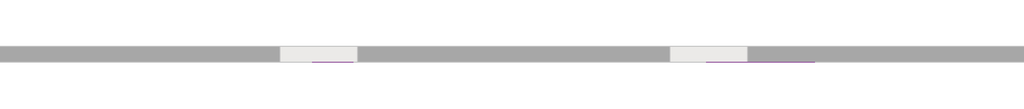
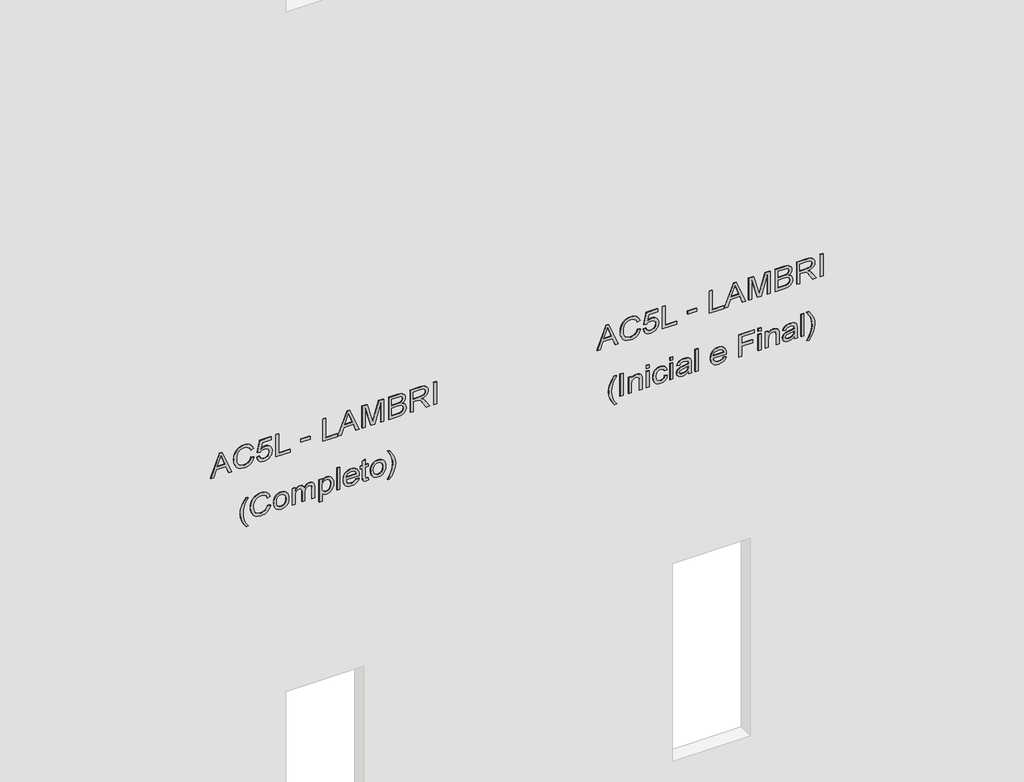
# One storey, part 10 of 11: 2 proxies.
"""IFC4 building model written with IfcOpenShell, lengths in millimetres."""

from ifc_helpers import new_model, si_unit, frame, origin, place, context, project, spatial, polyline, outline, extrude, element, save

model = new_model("IFC4")

# Units and contexts
model_context = context("Model", 3, world=origin())
ifc_project = project(units=[si_unit("LENGTHUNIT", "METRE", prefix="MILLI")], contexts=[model_context])

# Site, building, storey
site = spatial("IfcSite", under=ifc_project)
building = spatial("IfcBuilding", under=site)
storey = spatial("IfcBuildingStorey", under=building, Name="01 - Marelli - Planta Baixa - Painéis Lambri", Elevation=0.0)

# Proxies
placement = place(None, origin())
element("IfcBuildingElementProxy", 1, Name="300mm Arial", ObjectType="300mm Arial", at=placement, inside=storey, context=model_context, shape_type="SweptSolid", body=[
    extrude(outline(polyline([(5965.9244535, 57389.5842548), (5965.9244535, 57429.3890867), (6060.1022443, 57463.8228414), (6060.1022443, 57587.9462266), (5965.9244535, 57622.4535577), (5965.9244535, 57662.2583896), (6267.293384, 57541.9609772), (6267.293384, 57509.8816672), (5965.9244535, 57389.5842548)]), holes=[polyline([(6097.7733606, 57477.6552044), (6178.3395176, 57507.1593405), (6229.6222677, 57525.9213222), (6171.8647944, 57547.0377487), (6097.7733606, 57574.18744), (6097.7733606, 57477.6552044)])]), frame((0.0, 8778.3159498, 0.0), z_axis=(0.0, 1.0, 0.0), x_axis=(0.0, 0.0, 1.0)), (0.0, 0.0, 1.0), 10.0),
    extrude(outline(polyline([(6073.0516905, 57914.4047091), (6040.7884396, 57902.218618), (6017.5750857, 57882.4357637), (6003.5587816, 57856.2333686), (5998.8866803, 57824.7886551), (6002.3171799, 57797.8137078), (6012.6086787, 57772.8069292), (6029.8347531, 57751.94802), (6054.0689796, 57737.4166812), (6084.1617268, 57728.891016), (6118.9633635, 57726.0491276), (6147.3822477, 57728.4495576), (6174.9550032, 57735.6508477), (6199.3455795, 57748.7750378), (6218.2179258, 57768.9441682), (6230.3028494, 57795.5236424), (6234.3311572, 57827.8788639), (6230.6983225, 57855.9482601), (6219.7998184, 57878.793732), (6200.9550632, 57896.6360087), (6173.4834752, 57909.6958196), (6182.4597959, 57947.3669359), (6220.278065, 57930.7294727), (6235.6003501, 57918.9273584), (6248.5314022, 57904.802989), (6258.7999084, 57888.623079), (6266.1345557, 57870.6543428), (6272.0022735, 57829.3503918), (6267.4681279, 57791.4953345), (6253.8656912, 57756.9512152), (6231.526057, 57727.8241582), (6200.7803193, 57706.220288), (6162.8332915, 57692.8385805), (6118.8897871, 57688.3780113), (6077.2271512, 57692.3235457), (6038.3236302, 57704.1601489), (6005.2326447, 57723.54753), (5981.0076153, 57750.1453983), (5966.1635768, 57784.8458675), (5961.215564, 57828.5410514), (5962.8503396, 57850.963459), (5967.7546665, 57871.5832449), (5975.9285445, 57890.4004089), (5987.3719739, 57907.4149512), (6001.9286046, 57922.2911794), (6019.4420868, 57934.6934012), (6039.9124206, 57944.6216165), (6063.3396059, 57952.0758254), (6073.0516905, 57914.4047091)])), frame((0.0, 8778.3159498, 0.0), z_axis=(0.0, 1.0, 0.0), x_axis=(0.0, 0.0, 1.0)), (0.0, 0.0, 1.0), 10.0),
    extrude(outline(polyline([(6045.9755757, 57989.7469417), (6011.4222593, 57998.9347946), (5996.9805917, 58007.6604956), (5984.4289179, 58019.1407131), (5974.2730756, 58032.9385872), (5967.0189025, 58048.617258), (5961.215564, 58085.6169897), (5963.4734397, 58109.1062551), (5970.247067, 58129.9835583), (5981.5364457, 58148.2488994), (5997.3415759, 58163.9022782), (6012.7742256, 58174.2351638), (6029.5680387, 58181.6157963), (6067.239155, 58187.5203023), (6087.5002559, 58185.8809282), (6105.8299763, 58180.9628058), (6122.2283162, 58172.7659351), (6136.6952757, 58161.2903161), (6148.5088863, 58147.4280626), (6156.9471795, 58132.0712886), (6162.0101555, 58115.219994), (6163.6978141, 58096.8741787), (6158.2531606, 58068.6760238), (6141.9192, 58041.7654558), (6224.9133781, 58057.8786872), (6224.9133781, 58173.3936337), (6262.5844944, 58173.3936337), (6262.5844944, 58027.418058), (6107.1911397, 57994.4558313), (6102.4822501, 58032.1269476), (6119.4783983, 58053.2801623), (6124.389623, 58068.0782156), (6126.0266978, 58086.3527537), (6121.9248136, 58114.2474059), (6109.6191609, 58134.0670484), (6090.2317797, 58145.9036516), (6064.8847102, 58149.849186), (6037.9649452, 58145.6369372), (6016.9496863, 58133.0001907), (6003.4024318, 58112.7666809), (5998.8866803, 58085.7641425), (6002.1332389, 58063.5624641), (6011.8729147, 58046.400769), (6028.0689196, 58034.3342395), (6050.6844652, 58027.418058), (6045.9755757, 57989.7469417)])), frame((0.0, 8778.3159498, 0.0), z_axis=(0.0, 1.0, 0.0), x_axis=(0.0, 0.0, 1.0)), (0.0, 0.0, 1.0), 10.0),
    extrude(outline(polyline([(5965.9244535, 58234.6091977), (5965.9244535, 58422.9647792), (6003.5955698, 58422.9647792), (6003.5955698, 58272.280314), (6267.293384, 58272.280314), (6267.293384, 58234.6091977), (5965.9244535, 58234.6091977)])), frame((0.0, 8778.3159498, 0.0), z_axis=(0.0, 1.0, 0.0), x_axis=(0.0, 0.0, 1.0)), (0.0, 0.0, 1.0), 10.0),
    extrude(outline(polyline([(58677.2448143, 8778.3159498), (58559.5225759, 8778.3159498), (58559.5225759, 8788.3159498), (58677.2448143, 8788.3159498), (58677.2448143, 8778.3159498)])), frame((0.0, 0.0, 6055.3933548), z_axis=(0.0, 0.0, 1.0), x_axis=(1.0, 0.0, 0.0)), (0.0, 0.0, 1.0), 37.6711163),
    extrude(outline(polyline([(5965.9244535, 58842.0559482), (5965.9244535, 59030.4115297), (6003.5955698, 59030.4115297), (6003.5955698, 58879.7270645), (6267.293384, 58879.7270645), (6267.293384, 58842.0559482), (5965.9244535, 58842.0559482)])), frame((0.0, 8778.3159498, 0.0), z_axis=(0.0, 1.0, 0.0), x_axis=(0.0, 0.0, 1.0)), (0.0, 0.0, 1.0), 10.0),
    extrude(outline(polyline([(5965.9244535, 59037.6955932), (5965.9244535, 59077.5004251), (6060.1022443, 59111.9341798), (6060.1022443, 59236.057565), (5965.9244535, 59270.5648961), (5965.9244535, 59310.369728), (6267.293384, 59190.0723156), (6267.293384, 59157.9930056), (5965.9244535, 59037.6955932)]), holes=[polyline([(6097.7733606, 59125.7665428), (6178.3395176, 59155.2706788), (6229.6222677, 59174.0326606), (6171.8647944, 59195.1490871), (6097.7733606, 59222.2987784), (6097.7733606, 59125.7665428)])]), frame((0.0, 8778.3159498, 0.0), z_axis=(0.0, 1.0, 0.0), x_axis=(0.0, 0.0, 1.0)), (0.0, 0.0, 1.0), 10.0),
    extrude(outline(polyline([(5965.9244535, 59350.6160183), (5965.9244535, 59388.2871346), (6229.6222677, 59388.2871346), (5965.9244535, 59463.9972492), (5965.9244535, 59515.0592701), (6229.6222677, 59590.7693847), (5965.9244535, 59590.7693847), (5965.9244535, 59628.440501), (6267.293384, 59628.440501), (6267.293384, 59563.6196935), (6058.5571399, 59502.9927407), (6010.5117514, 59489.5282597), (6054.87832, 59477.0938482), (6267.293384, 59415.4368258), (6267.293384, 59350.6160183), (5965.9244535, 59350.6160183)])), frame((0.0, 8778.3159498, 0.0), z_axis=(0.0, 1.0, 0.0), x_axis=(0.0, 0.0, 1.0)), (0.0, 0.0, 1.0), 10.0),
    extrude(outline(polyline([(5965.9244535, 59694.3649546), (5965.9244535, 59808.4819495), (5971.1115897, 59856.7848555), (5977.5311305, 59874.8202703), (5986.4154807, 59889.5631412), (5998.6843452, 59901.6020795), (6015.2574291, 59911.5256963), (6034.7459778, 59918.1751634), (6055.7612368, 59920.3916524), (6080.9795475, 59917.1450938), (6102.6294029, 59907.405418), (6119.5887629, 59891.6324774), (6130.7355874, 59870.2861247), (6142.4802201, 59888.1559926), (6157.407032, 59900.8571185), (6174.4675596, 59908.4446846), (6192.613339, 59910.9738733), (6212.3318139, 59907.966438), (6231.1673721, 59898.9441321), (6247.1794359, 59884.6151284), (6258.4274279, 59865.6875997), (6265.076895, 59840.9935208), (6267.293384, 59809.3648663), (6267.293384, 59694.3649546), (5965.9244535, 59694.3649546)]), holes=[polyline([(6144.862256, 59732.0360709), (6229.6222677, 59732.0360709), (6229.6222677, 59795.6060797), (6225.6859303, 59844.0193502), (6220.084927, 59856.508944), (6211.1545915, 59865.7243879), (6199.7134615, 59871.4081648), (6186.5800742, 59873.302757), (6173.0512139, 59871.270209), (6162.0423452, 59865.1725649), (6153.6822268, 59855.0650071), (6148.0996175, 59841.0027179), (6144.862256, 59800.830004), (6144.862256, 59732.0360709)]), polyline([(6003.5955698, 59732.0360709), (6107.1911397, 59732.0360709), (6107.1911397, 59805.6124699), (6105.9311438, 59832.4402644), (6102.1511563, 59852.1495423), (6095.262566, 59866.0646788), (6084.6767616, 59875.510049), (6071.1387042, 59880.9179143), (6055.3933548, 59882.7205361), (6041.8369032, 59881.1846288), (6030.0094971, 59876.5769068), (6013.2708663, 59860.9051338), (6005.0670978, 59837.2503215), (6003.5955698, 59809.2912899), (6003.5955698, 59732.0360709)])]), frame((0.0, 8778.3159498, 0.0), z_axis=(0.0, 1.0, 0.0), x_axis=(0.0, 0.0, 1.0)), (0.0, 0.0, 1.0), 10.0),
    extrude(outline(polyline([(5965.9244535, 59972.1894373), (5965.9244535, 60009.8605536), (6097.7733606, 60009.8605536), (6097.7733606, 60055.3307682), (6096.4489854, 60077.1829588), (6089.2752865, 60095.0988119), (6069.7407526, 60115.0012279), (6028.3908163, 60143.3281415), (5965.9244535, 60182.5443622), (5965.9244535, 60226.3223196), (6047.5942565, 60176.0696391), (6086.3690188, 60145.5354335), (6102.4822501, 60124.1247013), (6112.4702463, 60161.2347976), (6120.4854753, 60175.6166844), (6130.5148582, 60187.2164635), (6155.1261637, 60202.5295516), (6184.8142407, 60207.6339143), (6208.6805851, 60204.5529025), (6230.3948199, 60195.3098674), (6247.9060028, 60180.9072873), (6259.1631919, 60162.3476406), (6265.260836, 60136.9545859), (6267.293384, 60102.0517816), (6267.293384, 59972.1894373), (5965.9244535, 59972.1894373)]), holes=[polyline([(6135.4444769, 60009.8605536), (6229.6222677, 60009.8605536), (6229.6222677, 60103.6704624), (6226.366512, 60133.4781011), (6216.599245, 60154.0335076), (6201.7919947, 60165.9804753), (6183.4162891, 60169.9627979), (6170.1081579, 60167.8750676), (6157.8484904, 60161.6118767), (6147.7133415, 60151.3295749), (6140.7787658, 60137.1845122), (6136.7780491, 60118.3949393), (6135.4444769, 60094.1791069), (6135.4444769, 60009.8605536)])]), frame((0.0, 8778.3159498, 0.0), z_axis=(0.0, 1.0, 0.0), x_axis=(0.0, 0.0, 1.0)), (0.0, 0.0, 1.0), 10.0),
    extrude(outline(polyline([(60315.9383736, 8778.3159498), (60278.2672573, 8778.3159498), (60278.2672573, 8788.3159498), (60315.9383736, 8788.3159498), (60315.9383736, 8778.3159498)])), frame((0.0, 0.0, 5965.9244535), z_axis=(0.0, 0.0, 1.0), x_axis=(1.0, 0.0, 0.0)), (0.0, 0.0, 1.0), 301.3689304),
    extrude(outline(polyline([(5149.3155348, 57848.4802556), (5149.3155348, 57876.7335928), (5197.5540614, 57847.8916444), (5245.8109821, 57827.2902527), (5294.0862969, 57814.9294176), (5342.3800058, 57810.8091393), (5380.2534572, 57813.1819781), (5417.9429677, 57820.3004948), (5475.7740173, 57841.4904977), (5535.4444769, 57876.7335928), (5535.4444769, 57848.4802556), (5484.934279, 57813.7889834), (5434.2033518, 57789.4719836), (5389.4137189, 57777.2215131), (5342.600735, 57773.138023), (5289.2210575, 57778.6010706), (5237.68079, 57794.9902135), (5190.2791949, 57819.2888193), (5149.3155348, 57848.4802556)])), frame((0.0, 8778.3159498, 0.0), z_axis=(0.0, 1.0, 0.0), x_axis=(0.0, 0.0, 1.0)), (0.0, 0.0, 1.0), 10.0),
    extrude(outline(polyline([(5341.2027835, 58131.0136279), (5308.9395325, 58118.8275368), (5285.7261786, 58099.0446825), (5271.7098746, 58072.8422874), (5267.0377732, 58041.3975739), (5270.4682728, 58014.4226266), (5280.7597717, 57989.4158479), (5297.9858461, 57968.5569388), (5322.2200725, 57954.0256), (5352.3128197, 57945.4999348), (5387.1144565, 57942.6580463), (5415.5333406, 57945.0584764), (5443.1060961, 57952.2597664), (5467.4966724, 57965.3839566), (5486.3690188, 57985.553087), (5498.4539423, 58012.1325611), (5502.4822501, 58044.4877826), (5498.8494154, 58072.5571788), (5487.9509113, 58095.4026507), (5469.1061561, 58113.2449275), (5441.6345681, 58126.3047383), (5450.6108888, 58163.9758546), (5488.4291579, 58147.3383914), (5503.751443, 58135.5362772), (5516.6824952, 58121.4119078), (5526.9510013, 58105.2319978), (5534.2856486, 58087.2632616), (5540.1533665, 58045.9593106), (5535.6192209, 58008.1042533), (5522.0167841, 57973.5601339), (5499.6771499, 57944.433077), (5468.9314122, 57922.8292068), (5430.9843844, 57909.4474992), (5387.0408801, 57904.98693), (5345.3782441, 57908.9324644), (5306.4747231, 57920.7690676), (5273.3837376, 57940.1564488), (5249.1587083, 57966.754317), (5234.3146698, 58001.4547862), (5229.3666569, 58045.1499702), (5231.0014325, 58067.5723778), (5235.9057594, 58088.1921636), (5244.0796375, 58107.0093277), (5255.5230668, 58124.02387), (5270.0796975, 58138.9000981), (5287.5931797, 58151.3023199), (5308.0635135, 58161.2305353), (5331.4906988, 58168.6847442), (5341.2027835, 58131.0136279)])), frame((0.0, 8778.3159498, 0.0), z_axis=(0.0, 1.0, 0.0), x_axis=(0.0, 0.0, 1.0)), (0.0, 0.0, 1.0), 10.0),
    extrude(outline(polyline([(5344.7344506, 58206.3558605), (5318.4124939, 58208.0642125), (5295.3646869, 58213.1892685), (5275.5910296, 58221.7310286), (5259.0915221, 58233.6894927), (5246.0868936, 58248.4162688), (5236.7978732, 58265.262965), (5231.224461, 58284.2295811), (5229.3666569, 58305.3161172), (5232.7419742, 58331.9047884), (5242.8679261, 58356.3413499), (5259.1007192, 58376.9151505), (5280.7965599, 58391.9155389), (5309.767267, 58401.0758005), (5347.8246594, 58404.1292211), (5372.7049786, 58402.402475), (5394.7388108, 58397.2222366), (5413.9261561, 58388.5885061), (5430.2670145, 58376.5012833), (5443.3199275, 58361.6917337), (5452.6434368, 58344.8910228), (5458.2375424, 58326.0991507), (5460.1022443, 58305.3161172), (5458.5709355, 58286.4897561), (5453.9770091, 58269.1533171), (5446.3204651, 58253.3068001), (5435.6013034, 58238.9502053), (5418.830483, 58224.6901794), (5398.095734, 58214.5044467), (5373.3970566, 58208.393007), (5344.7344506, 58206.3558605)]), holes=[polyline([(5344.808027, 58244.0269768), (5378.8830968, 58248.3863784), (5403.1173232, 58261.4645834), (5417.6026768, 58281.1462701), (5422.431128, 58305.3161172), (5417.5842827, 58329.2376439), (5403.0437468, 58348.9101336), (5379.0854319, 58362.071112), (5345.9852494, 58366.4581048), (5311.1468245, 58362.0987031), (5286.535519, 58349.0204982), (5271.9122097, 58329.3755997), (5267.0377732, 58305.3161172), (5271.8846185, 58281.1462701), (5286.4251544, 58261.4645834), (5310.7145631, 58248.3863784), (5344.808027, 58244.0269768)])]), frame((0.0, 8778.3159498, 0.0), z_axis=(0.0, 1.0, 0.0), x_axis=(0.0, 0.0, 1.0)), (0.0, 0.0, 1.0), 10.0),
    extrude(outline(polyline([(5234.0755465, 58446.5092269), (5234.0755465, 58484.1803432), (5345.6909438, 58484.1803432), (5371.6082304, 58485.615083), (5390.6461236, 58489.9193024), (5404.368122, 58497.4240951), (5414.3377241, 58508.4605549), (5420.407777, 58521.8330655), (5422.431128, 58536.3460102), (5419.3961015, 58553.4249318), (5410.2910222, 58564.9304412), (5395.0974958, 58571.4695437), (5373.7971282, 58573.6492445), (5234.0755465, 58573.6492445), (5234.0755465, 58611.3203608), (5359.008272, 58611.3203608), (5387.7214617, 58615.0083778), (5407.3479662, 58626.0724288), (5418.6603375, 58642.709892), (5422.431128, 58663.1181457), (5420.9596, 58674.6788374), (5416.5450161, 58684.6392424), (5409.7300021, 58692.3831584), (5401.0571841, 58697.2943831), (5369.6032735, 58700.789262), (5234.0755465, 58700.789262), (5234.0755465, 58738.4603783), (5385.7900813, 58738.4603783), (5418.7615051, 58734.1469619), (5441.8920855, 58721.2067127), (5455.5497046, 58700.2650302), (5460.1022443, 58671.9473136), (5457.366122, 58652.4219767), (5449.1577549, 58634.8280203), (5435.4771432, 58619.1654443), (5416.3242869, 58605.4342489), (5434.7643719, 58597.2304804), (5448.5875379, 58584.6857043), (5457.2235677, 58567.8918912), (5460.1022443, 58546.9410116), (5457.27875, 58527.3880836), (5448.808267, 58510.0792357), (5435.702471, 58495.5111087), (5418.9730372, 58484.1803432), (5455.3933548, 58484.1803432), (5455.3933548, 58446.5092269), (5234.0755465, 58446.5092269)])), frame((0.0, 8778.3159498, 0.0), z_axis=(0.0, 1.0, 0.0), x_axis=(0.0, 0.0, 1.0)), (0.0, 0.0, 1.0), 10.0),
    extrude(outline(polyline([(5149.3155348, 58794.9670528), (5149.3155348, 58832.6381691), (5263.5061061, 58832.6381691), (5249.9956398, 58843.2791558), (5239.0419534, 58856.5137106), (5231.785481, 58871.9739514), (5229.3666569, 58889.2919963), (5232.9810975, 58913.7101638), (5243.8244193, 58936.9327147), (5261.4459669, 58956.8719188), (5285.3950848, 58971.4400459), (5314.2094421, 58980.3519872), (5346.4267078, 58983.3226343), (5376.7217901, 58980.692278), (5404.4784866, 58972.8012092), (5427.9861461, 58959.7413984), (5445.5341173, 58941.604816), (5456.4602125, 58919.3295612), (5460.1022443, 58893.8537331), (5457.4994792, 58874.7238693), (5449.6911838, 58858.6842143), (5436.6773583, 58844.9254277), (5418.4580024, 58832.6381691), (5455.3933548, 58832.6381691), (5455.3933548, 58794.9670528), (5149.3155348, 58794.9670528)]), holes=[polyline([(5342.968617, 58832.6381691), (5377.1356573, 58836.9883737), (5402.0872537, 58850.0389874), (5417.3451594, 58868.7365899), (5422.431128, 58890.0277603), (5417.6486621, 58911.2361573), (5403.3012642, 58929.243981), (5379.3521464, 58941.5496337), (5345.7645202, 58945.651518), (5310.7237602, 58941.4484662), (5286.2412134, 58928.8393108), (5271.8386333, 58910.3440435), (5267.0377732, 58888.4826559), (5271.6730864, 58866.9707563), (5285.5790258, 58848.9353415), (5309.1970499, 58836.7124622), (5342.968617, 58832.6381691)])]), frame((0.0, 8778.3159498, 0.0), z_axis=(0.0, 1.0, 0.0), x_axis=(0.0, 0.0, 1.0)), (0.0, 0.0, 1.0), 10.0),
    extrude(outline(polyline([(59063.3737565, 8778.3159498), (59025.7026401, 8778.3159498), (59025.7026401, 8788.3159498), (59063.3737565, 8788.3159498), (59063.3737565, 8778.3159498)])), frame((0.0, 0.0, 5234.0755465), z_axis=(0.0, 0.0, 1.0), x_axis=(1.0, 0.0, 0.0)), (0.0, 0.0, 1.0), 301.3689304),
    extrude(outline(polyline([(5300.0, 59274.8323273), (5285.1191733, 59264.274114), (5274.9104479, 59250.5521156), (5269.0059419, 59233.666332), (5267.0377732, 59213.6167633), (5271.2868103, 59186.9545157), (5284.0339214, 59165.0931281), (5304.7640718, 59149.945587), (5332.9622268, 59143.4248786), (5332.9622268, 59312.7241728), (5343.1157698, 59312.944902), (5369.3687487, 59311.158375), (5392.5039277, 59305.7987942), (5412.5213067, 59296.8661595), (5429.4208859, 59284.360471), (5442.8439802, 59269.0404851), (5452.4319047, 59251.6649586), (5458.1846594, 59232.2338915), (5460.1022443, 59210.7472837), (5458.1800609, 59188.5456053), (5452.4135106, 59168.5144307), (5442.8025935, 59150.6537598), (5429.3473095, 59134.9635927), (5412.4109422, 59122.1842919), (5392.3567749, 59113.0562199), (5369.1848077, 59107.5793767), (5342.8950406, 59105.7537623), (5317.467497, 59107.5609826), (5295.0427901, 59112.9826435), (5275.62092, 59122.018745), (5259.2018867, 59134.6692871), (5246.1489737, 59150.4008409), (5236.8254644, 59168.6799776), (5231.2313588, 59189.506697), (5229.3666569, 59212.8809993), (5233.6892704, 59248.5379617), (5246.6571107, 59277.2235602), (5267.4608375, 59298.4595484), (5295.2911105, 59311.7676796), (5300.0, 59274.8323273)]), holes=[polyline([(5370.6333431, 59143.4248786), (5391.8693312, 59149.6144932), (5408.3412476, 59164.2102113), (5418.9086579, 59185.2070762), (5422.431128, 59210.6001309), (5418.0165441, 59238.2280688), (5404.7727922, 59260.1906239), (5390.535759, 59270.17862), (5370.6333431, 59275.2737857), (5370.6333431, 59143.4248786)])]), frame((0.0, 8778.3159498, 0.0), z_axis=(0.0, 1.0, 0.0), x_axis=(0.0, 0.0, 1.0)), (0.0, 0.0, 1.0), 10.0),
    extrude(outline(polyline([(5265.4926689, 59430.6671404), (5267.0377732, 59414.2596035), (5269.576159, 59401.4205218), (5276.4555523, 59394.9825869), (5295.8797217, 59392.9960241), (5417.7222385, 59392.9960241), (5417.7222385, 59430.6671404), (5455.3933548, 59430.6671404), (5455.3933548, 59392.9960241), (5531.3241986, 59392.9960241), (5509.1777025, 59355.3249078), (5455.3933548, 59355.3249078), (5455.3933548, 59327.0715706), (5417.7222385, 59327.0715706), (5417.7222385, 59355.3249078), (5294.7760757, 59355.3249078), (5267.7919313, 59356.465342), (5252.0281878, 59359.8866446), (5242.849532, 59366.1038503), (5235.6206508, 59375.631994), (5230.9301554, 59389.1148691), (5229.3666569, 59407.1962691), (5232.9719005, 59435.37603), (5265.4926689, 59430.6671404)])), frame((0.0, 8778.3159498, 0.0), z_axis=(0.0, 1.0, 0.0), x_axis=(0.0, 0.0, 1.0)), (0.0, 0.0, 1.0), 10.0),
    extrude(outline(polyline([(5344.7344506, 59458.9204777), (5318.4124939, 59460.6288297), (5295.3646869, 59465.7538857), (5275.5910296, 59474.2956458), (5259.0915221, 59486.2541099), (5246.0868936, 59500.980886), (5236.7978732, 59517.8275821), (5231.224461, 59536.7941983), (5229.3666569, 59557.8807344), (5232.7419742, 59584.4694056), (5242.8679261, 59608.9059671), (5259.1007192, 59629.4797677), (5280.7965599, 59644.480156), (5309.767267, 59653.6404177), (5347.8246594, 59656.6938383), (5372.7049786, 59654.9670922), (5394.7388108, 59649.7868538), (5413.9261561, 59641.1531232), (5430.2670145, 59629.0659004), (5443.3199275, 59614.2563509), (5452.6434368, 59597.45564), (5458.2375424, 59578.6637678), (5460.1022443, 59557.8807344), (5458.5709355, 59539.0543733), (5453.9770091, 59521.7179342), (5446.3204651, 59505.8714173), (5435.6013034, 59491.5148224), (5418.830483, 59477.2547966), (5398.095734, 59467.0690639), (5373.3970566, 59460.9576242), (5344.7344506, 59458.9204777)]), holes=[polyline([(5344.808027, 59496.591594), (5378.8830968, 59500.9509956), (5403.1173232, 59514.0292005), (5417.6026768, 59533.7108873), (5422.431128, 59557.8807344), (5417.5842827, 59581.8022611), (5403.0437468, 59601.4747508), (5379.0854319, 59614.6357292), (5345.9852494, 59619.022722), (5311.1468245, 59614.6633203), (5286.535519, 59601.5851154), (5271.9122097, 59581.9402169), (5267.0377732, 59557.8807344), (5271.8846185, 59533.7108873), (5286.4251544, 59514.0292005), (5310.7145631, 59500.9509956), (5344.808027, 59496.591594)])]), frame((0.0, 8778.3159498, 0.0), z_axis=(0.0, 1.0, 0.0), x_axis=(0.0, 0.0, 1.0)), (0.0, 0.0, 1.0), 10.0),
    extrude(outline(polyline([(5149.3155348, 59708.4916232), (5190.2791949, 59737.5451038), (5237.68079, 59761.8713007), (5289.2210575, 59778.343217), (5342.600735, 59783.8338558), (5389.4137189, 59779.7503657), (5434.2033518, 59767.4998952), (5484.934279, 59743.1828953), (5535.4444769, 59708.4916232), (5535.4444769, 59680.238286), (5475.1854061, 59715.7021103), (5446.8400984, 59727.6766692), (5417.2807801, 59736.671384), (5379.9775458, 59743.7899006), (5342.3800058, 59746.1627395), (5294.0862969, 59742.0424612), (5245.8109821, 59729.6816261), (5197.5540614, 59709.0802344), (5149.3155348, 59680.238286), (5149.3155348, 59708.4916232)])), frame((0.0, 8778.3159498, 0.0), z_axis=(0.0, 1.0, 0.0), x_axis=(0.0, 0.0, 1.0)), (0.0, 0.0, 1.0), 10.0),
])
element("IfcBuildingElementProxy", 2, Name="300mm Arial", ObjectType="300mm Arial", at=placement, inside=storey, context=model_context, shape_type="SweptSolid", body=[
    extrude(outline(polyline([(5965.9244535, 62389.5842548), (5965.9244535, 62429.3890867), (6060.1022443, 62463.8228414), (6060.1022443, 62587.9462266), (5965.9244535, 62622.4535577), (5965.9244535, 62662.2583896), (6267.293384, 62541.9609772), (6267.293384, 62509.8816672), (5965.9244535, 62389.5842548)]), holes=[polyline([(6097.7733606, 62477.6552044), (6178.3395176, 62507.1593405), (6229.6222677, 62525.9213222), (6171.8647944, 62547.0377487), (6097.7733606, 62574.18744), (6097.7733606, 62477.6552044)])]), frame((0.0, 8778.3159498, 0.0), z_axis=(0.0, 1.0, 0.0), x_axis=(0.0, 0.0, 1.0)), (0.0, 0.0, 1.0), 10.0),
    extrude(outline(polyline([(6073.0516905, 62914.4047091), (6040.7884396, 62902.218618), (6017.5750857, 62882.4357637), (6003.5587816, 62856.2333686), (5998.8866803, 62824.7886551), (6002.3171799, 62797.8137078), (6012.6086787, 62772.8069292), (6029.8347531, 62751.94802), (6054.0689796, 62737.4166812), (6084.1617268, 62728.891016), (6118.9633635, 62726.0491276), (6147.3822477, 62728.4495576), (6174.9550032, 62735.6508477), (6199.3455795, 62748.7750378), (6218.2179258, 62768.9441682), (6230.3028494, 62795.5236424), (6234.3311572, 62827.8788639), (6230.6983225, 62855.9482601), (6219.7998184, 62878.793732), (6200.9550632, 62896.6360087), (6173.4834752, 62909.6958196), (6182.4597959, 62947.3669359), (6220.278065, 62930.7294727), (6235.6003501, 62918.9273584), (6248.5314022, 62904.802989), (6258.7999084, 62888.623079), (6266.1345557, 62870.6543428), (6272.0022735, 62829.3503918), (6267.4681279, 62791.4953345), (6253.8656912, 62756.9512152), (6231.526057, 62727.8241582), (6200.7803193, 62706.220288), (6162.8332915, 62692.8385805), (6118.8897871, 62688.3780113), (6077.2271512, 62692.3235457), (6038.3236302, 62704.1601489), (6005.2326447, 62723.54753), (5981.0076153, 62750.1453983), (5966.1635768, 62784.8458675), (5961.215564, 62828.5410514), (5962.8503396, 62850.963459), (5967.7546665, 62871.5832449), (5975.9285445, 62890.4004089), (5987.3719739, 62907.4149512), (6001.9286046, 62922.2911794), (6019.4420868, 62934.6934012), (6039.9124206, 62944.6216165), (6063.3396059, 62952.0758254), (6073.0516905, 62914.4047091)])), frame((0.0, 8778.3159498, 0.0), z_axis=(0.0, 1.0, 0.0), x_axis=(0.0, 0.0, 1.0)), (0.0, 0.0, 1.0), 10.0),
    extrude(outline(polyline([(6045.9755757, 62989.7469417), (6011.4222593, 62998.9347946), (5996.9805917, 63007.6604956), (5984.4289179, 63019.1407131), (5974.2730756, 63032.9385872), (5967.0189025, 63048.617258), (5961.215564, 63085.6169897), (5963.4734397, 63109.1062551), (5970.247067, 63129.9835583), (5981.5364457, 63148.2488994), (5997.3415759, 63163.9022782), (6012.7742256, 63174.2351638), (6029.5680387, 63181.6157963), (6067.239155, 63187.5203023), (6087.5002559, 63185.8809282), (6105.8299763, 63180.9628058), (6122.2283162, 63172.7659351), (6136.6952757, 63161.2903161), (6148.5088863, 63147.4280626), (6156.9471795, 63132.0712886), (6162.0101555, 63115.219994), (6163.6978141, 63096.8741787), (6158.2531606, 63068.6760238), (6141.9192, 63041.7654558), (6224.9133781, 63057.8786872), (6224.9133781, 63173.3936337), (6262.5844944, 63173.3936337), (6262.5844944, 63027.418058), (6107.1911397, 62994.4558313), (6102.4822501, 63032.1269476), (6119.4783983, 63053.2801623), (6124.389623, 63068.0782156), (6126.0266978, 63086.3527537), (6121.9248136, 63114.2474059), (6109.6191609, 63134.0670484), (6090.2317797, 63145.9036516), (6064.8847102, 63149.849186), (6037.9649452, 63145.6369372), (6016.9496863, 63133.0001907), (6003.4024318, 63112.7666809), (5998.8866803, 63085.7641425), (6002.1332389, 63063.5624641), (6011.8729147, 63046.400769), (6028.0689196, 63034.3342395), (6050.6844652, 63027.418058), (6045.9755757, 62989.7469417)])), frame((0.0, 8778.3159498, 0.0), z_axis=(0.0, 1.0, 0.0), x_axis=(0.0, 0.0, 1.0)), (0.0, 0.0, 1.0), 10.0),
    extrude(outline(polyline([(5965.9244535, 63234.6091977), (5965.9244535, 63422.9647792), (6003.5955698, 63422.9647792), (6003.5955698, 63272.280314), (6267.293384, 63272.280314), (6267.293384, 63234.6091977), (5965.9244535, 63234.6091977)])), frame((0.0, 8778.3159498, 0.0), z_axis=(0.0, 1.0, 0.0), x_axis=(0.0, 0.0, 1.0)), (0.0, 0.0, 1.0), 10.0),
    extrude(outline(polyline([(63677.2448143, 8778.3159498), (63559.5225759, 8778.3159498), (63559.5225759, 8788.3159498), (63677.2448143, 8788.3159498), (63677.2448143, 8778.3159498)])), frame((0.0, 0.0, 6055.3933548), z_axis=(0.0, 0.0, 1.0), x_axis=(1.0, 0.0, 0.0)), (0.0, 0.0, 1.0), 37.6711163),
    extrude(outline(polyline([(5965.9244535, 63842.0559482), (5965.9244535, 64030.4115297), (6003.5955698, 64030.4115297), (6003.5955698, 63879.7270645), (6267.293384, 63879.7270645), (6267.293384, 63842.0559482), (5965.9244535, 63842.0559482)])), frame((0.0, 8778.3159498, 0.0), z_axis=(0.0, 1.0, 0.0), x_axis=(0.0, 0.0, 1.0)), (0.0, 0.0, 1.0), 10.0),
    extrude(outline(polyline([(5965.9244535, 64037.6955932), (5965.9244535, 64077.5004251), (6060.1022443, 64111.9341798), (6060.1022443, 64236.057565), (5965.9244535, 64270.5648961), (5965.9244535, 64310.369728), (6267.293384, 64190.0723156), (6267.293384, 64157.9930056), (5965.9244535, 64037.6955932)]), holes=[polyline([(6097.7733606, 64125.7665428), (6178.3395176, 64155.2706788), (6229.6222677, 64174.0326606), (6171.8647944, 64195.1490871), (6097.7733606, 64222.2987784), (6097.7733606, 64125.7665428)])]), frame((0.0, 8778.3159498, 0.0), z_axis=(0.0, 1.0, 0.0), x_axis=(0.0, 0.0, 1.0)), (0.0, 0.0, 1.0), 10.0),
    extrude(outline(polyline([(5965.9244535, 64350.6160183), (5965.9244535, 64388.2871346), (6229.6222677, 64388.2871346), (5965.9244535, 64463.9972492), (5965.9244535, 64515.0592701), (6229.6222677, 64590.7693847), (5965.9244535, 64590.7693847), (5965.9244535, 64628.440501), (6267.293384, 64628.440501), (6267.293384, 64563.6196935), (6058.5571399, 64502.9927407), (6010.5117514, 64489.5282597), (6054.87832, 64477.0938482), (6267.293384, 64415.4368258), (6267.293384, 64350.6160183), (5965.9244535, 64350.6160183)])), frame((0.0, 8778.3159498, 0.0), z_axis=(0.0, 1.0, 0.0), x_axis=(0.0, 0.0, 1.0)), (0.0, 0.0, 1.0), 10.0),
    extrude(outline(polyline([(5965.9244535, 64694.3649546), (5965.9244535, 64808.4819495), (5971.1115897, 64856.7848555), (5977.5311305, 64874.8202703), (5986.4154807, 64889.5631412), (5998.6843452, 64901.6020795), (6015.2574291, 64911.5256963), (6034.7459778, 64918.1751634), (6055.7612368, 64920.3916524), (6080.9795475, 64917.1450938), (6102.6294029, 64907.405418), (6119.5887629, 64891.6324774), (6130.7355874, 64870.2861247), (6142.4802201, 64888.1559926), (6157.407032, 64900.8571185), (6174.4675596, 64908.4446846), (6192.613339, 64910.9738733), (6212.3318139, 64907.966438), (6231.1673721, 64898.9441321), (6247.1794359, 64884.6151284), (6258.4274279, 64865.6875997), (6265.076895, 64840.9935208), (6267.293384, 64809.3648663), (6267.293384, 64694.3649546), (5965.9244535, 64694.3649546)]), holes=[polyline([(6144.862256, 64732.0360709), (6229.6222677, 64732.0360709), (6229.6222677, 64795.6060797), (6225.6859303, 64844.0193502), (6220.084927, 64856.508944), (6211.1545915, 64865.7243879), (6199.7134615, 64871.4081648), (6186.5800742, 64873.302757), (6173.0512139, 64871.270209), (6162.0423452, 64865.1725649), (6153.6822268, 64855.0650071), (6148.0996175, 64841.0027179), (6144.862256, 64800.830004), (6144.862256, 64732.0360709)]), polyline([(6003.5955698, 64732.0360709), (6107.1911397, 64732.0360709), (6107.1911397, 64805.6124699), (6105.9311438, 64832.4402644), (6102.1511563, 64852.1495423), (6095.262566, 64866.0646788), (6084.6767616, 64875.510049), (6071.1387042, 64880.9179143), (6055.3933548, 64882.7205361), (6041.8369032, 64881.1846288), (6030.0094971, 64876.5769068), (6013.2708663, 64860.9051338), (6005.0670978, 64837.2503215), (6003.5955698, 64809.2912899), (6003.5955698, 64732.0360709)])]), frame((0.0, 8778.3159498, 0.0), z_axis=(0.0, 1.0, 0.0), x_axis=(0.0, 0.0, 1.0)), (0.0, 0.0, 1.0), 10.0),
    extrude(outline(polyline([(5965.9244535, 64972.1894373), (5965.9244535, 65009.8605536), (6097.7733606, 65009.8605536), (6097.7733606, 65055.3307682), (6096.4489854, 65077.1829588), (6089.2752865, 65095.0988119), (6069.7407526, 65115.0012279), (6028.3908163, 65143.3281415), (5965.9244535, 65182.5443622), (5965.9244535, 65226.3223196), (6047.5942565, 65176.0696391), (6086.3690188, 65145.5354335), (6102.4822501, 65124.1247013), (6112.4702463, 65161.2347976), (6120.4854753, 65175.6166844), (6130.5148582, 65187.2164635), (6155.1261637, 65202.5295516), (6184.8142407, 65207.6339143), (6208.6805851, 65204.5529025), (6230.3948199, 65195.3098674), (6247.9060028, 65180.9072873), (6259.1631919, 65162.3476406), (6265.260836, 65136.9545859), (6267.293384, 65102.0517816), (6267.293384, 64972.1894373), (5965.9244535, 64972.1894373)]), holes=[polyline([(6135.4444769, 65009.8605536), (6229.6222677, 65009.8605536), (6229.6222677, 65103.6704624), (6226.366512, 65133.4781011), (6216.599245, 65154.0335076), (6201.7919947, 65165.9804753), (6183.4162891, 65169.9627979), (6170.1081579, 65167.8750676), (6157.8484904, 65161.6118767), (6147.7133415, 65151.3295749), (6140.7787658, 65137.1845122), (6136.7780491, 65118.3949393), (6135.4444769, 65094.1791069), (6135.4444769, 65009.8605536)])]), frame((0.0, 8778.3159498, 0.0), z_axis=(0.0, 1.0, 0.0), x_axis=(0.0, 0.0, 1.0)), (0.0, 0.0, 1.0), 10.0),
    extrude(outline(polyline([(65315.9383736, 8778.3159498), (65278.2672573, 8778.3159498), (65278.2672573, 8788.3159498), (65315.9383736, 8788.3159498), (65315.9383736, 8778.3159498)])), frame((0.0, 0.0, 5965.9244535), z_axis=(0.0, 0.0, 1.0), x_axis=(1.0, 0.0, 0.0)), (0.0, 0.0, 1.0), 301.3689304),
    extrude(outline(polyline([(5149.3155348, 62613.0357787), (5149.3155348, 62641.2891159), (5197.5540614, 62612.4471675), (5245.8109821, 62591.8457757), (5294.0862969, 62579.4849407), (5342.3800058, 62575.3646624), (5380.2534572, 62577.7375012), (5417.9429677, 62584.8560178), (5475.7740173, 62606.0460208), (5535.4444769, 62641.2891159), (5535.4444769, 62613.0357787), (5484.934279, 62578.3445065), (5434.2033518, 62554.0275066), (5389.4137189, 62541.7770362), (5342.600735, 62537.6935461), (5289.2210575, 62543.1565937), (5237.68079, 62559.5457366), (5190.2791949, 62583.8443424), (5149.3155348, 62613.0357787)])), frame((0.0, 8778.3159498, 0.0), z_axis=(0.0, 1.0, 0.0), x_axis=(0.0, 0.0, 1.0)), (0.0, 0.0, 1.0), 10.0),
    extrude(outline(polyline([(62726.0491276, 8778.3159498), (62688.3780113, 8778.3159498), (62688.3780113, 8788.3159498), (62726.0491276, 8788.3159498), (62726.0491276, 8778.3159498)])), frame((0.0, 0.0, 5234.0755465), z_axis=(0.0, 0.0, 1.0), x_axis=(1.0, 0.0, 0.0)), (0.0, 0.0, 1.0), 301.3689304),
    extrude(outline(polyline([(5234.0755465, 62796.6824707), (5234.0755465, 62834.353587), (5351.5034793, 62834.353587), (5386.2131456, 62838.6486093), (5398.5877762, 62844.0173871), (5407.6422718, 62851.5336761), (5418.7339139, 62870.3416431), (5422.431128, 62892.4053658), (5420.7848561, 62906.3021082), (5415.8460403, 62918.2674701), (5408.1481095, 62927.6024757), (5398.2244927, 62933.6081493), (5364.8943839, 62937.9491568), (5234.0755465, 62937.9491568), (5234.0755465, 62975.6202731), (5369.9711555, 62975.6202731), (5406.391473, 62973.6337103), (5434.0929872, 62962.3397331), (5444.6328064, 62952.2413723), (5452.9285454, 62938.0595214), (5458.3088196, 62921.0541762), (5460.1022443, 62902.4853325), (5457.8765582, 62881.5068617), (5451.1995, 62863.1587472), (5440.0710697, 62847.4409889), (5424.4912672, 62834.353587), (5455.3933548, 62834.353587), (5455.3933548, 62796.6824707), (5234.0755465, 62796.6824707)])), frame((0.0, 8778.3159498, 0.0), z_axis=(0.0, 1.0, 0.0), x_axis=(0.0, 0.0, 1.0)), (0.0, 0.0, 1.0), 10.0),
    extrude(outline(polyline([(63065.0891743, 8778.3159498), (63027.418058, 8778.3159498), (63027.418058, 8788.3159498), (63065.0891743, 8788.3159498), (63065.0891743, 8778.3159498)])), frame((0.0, 0.0, 5497.7733606), z_axis=(0.0, 0.0, 1.0), x_axis=(1.0, 0.0, 0.0)), (0.0, 0.0, 1.0), 37.6711163),
    extrude(outline(polyline([(63065.0891743, 8778.3159498), (63027.418058, 8778.3159498), (63027.418058, 8788.3159498), (63065.0891743, 8788.3159498), (63065.0891743, 8778.3159498)])), frame((0.0, 0.0, 5234.0755465), z_axis=(0.0, 0.0, 1.0), x_axis=(1.0, 0.0, 0.0)), (0.0, 0.0, 1.0), 221.3178083),
    extrude(outline(polyline([(5314.1266686, 63262.8625349), (5293.2493654, 63256.4337971), (5278.5892679, 63244.799529), (5269.9256469, 63228.8058592), (5267.0377732, 63209.2989165), (5271.6638893, 63185.2670251), (5285.5422376, 63166.2935112), (5309.6477053, 63153.9602673), (5344.9551798, 63149.849186), (5379.7936048, 63154.0522378), (5403.816299, 63166.6613932), (5417.7774208, 63185.984395), (5422.431128, 63210.328986), (5420.0674862, 63226.8192965), (5412.9765607, 63240.6792506), (5401.1951398, 63251.3202373), (5384.7600117, 63258.1536454), (5389.4689012, 63295.8247617), (5419.4512838, 63285.5700511), (5441.7081445, 63267.3139071), (5455.5037194, 63241.8656701), (5460.1022443, 63210.0346804), (5456.7545181, 63183.3908269), (5446.7113397, 63158.7887185), (5429.9635118, 63138.224115), (5406.5018376, 63123.6927762), (5377.448357, 63115.0567463), (5343.9251102, 63112.1780697), (5317.8675687, 63113.8634291), (5295.024396, 63118.9195073), (5275.3955923, 63127.3463042), (5258.9811575, 63139.14382), (5246.0248135, 63153.7188448), (5236.7702821, 63170.4781689), (5231.2175632, 63189.4217924), (5229.3666569, 63210.5497152), (5234.6733547, 63243.1808482), (5250.593448, 63270.2937513), (5275.9129264, 63290.0306203), (5309.4177791, 63300.5336513), (5314.1266686, 63262.8625349)])), frame((0.0, 8778.3159498, 0.0), z_axis=(0.0, 1.0, 0.0), x_axis=(0.0, 0.0, 1.0)), (0.0, 0.0, 1.0), 10.0),
    extrude(outline(polyline([(63371.1669943, 8778.3159498), (63333.495878, 8778.3159498), (63333.495878, 8788.3159498), (63371.1669943, 8788.3159498), (63371.1669943, 8778.3159498)])), frame((0.0, 0.0, 5497.7733606), z_axis=(0.0, 0.0, 1.0), x_axis=(1.0, 0.0, 0.0)), (0.0, 0.0, 1.0), 37.6711163),
    extrude(outline(polyline([(63371.1669943, 8778.3159498), (63333.495878, 8778.3159498), (63333.495878, 8788.3159498), (63371.1669943, 8788.3159498), (63371.1669943, 8778.3159498)])), frame((0.0, 0.0, 5234.0755465), z_axis=(0.0, 0.0, 1.0), x_axis=(1.0, 0.0, 0.0)), (0.0, 0.0, 1.0), 221.3178083),
    extrude(outline(polyline([(5262.3288837, 63568.9403549), (5234.0755465, 63578.358134), (5234.0755465, 63616.0292503), (5265.7501862, 63608.5244576), (5331.1963932, 63606.6114712), (5378.0645594, 63606.6114712), (5411.0267861, 63604.7720613), (5425.1442577, 63600.2287186), (5436.5945848, 63593.2205666), (5445.856014, 63582.6531563), (5453.406792, 63567.4320388), (5458.4283812, 63547.2445143), (5460.1022443, 63521.7778832), (5458.207652, 63495.2260002), (5452.5238752, 63472.0770256), (5443.3452194, 63453.149497), (5430.9659903, 63439.2619516), (5414.7791825, 63429.5038817), (5394.1777908, 63422.9647792), (5389.4689012, 63460.6358956), (5405.1314772, 63468.1222942), (5415.1838527, 63478.8092661), (5420.6193092, 63494.4810391), (5422.431128, 63516.9218408), (5419.7088012, 63541.1652643), (5411.5418209, 63558.5660827), (5400.5421493, 63566.3467869), (5383.7299421, 63568.9403549), (5375.3422326, 63568.7196257), (5368.3524747, 63541.9010283), (5362.3927864, 63503.3837834), (5356.7274037, 63470.7894386), (5344.3665686, 63444.4122996), (5334.8752131, 63433.8081011), (5322.7351073, 63425.4663768), (5308.5532564, 63420.0585115), (5292.9366657, 63418.2558897), (5267.6079903, 63423.0291586), (5247.2457219, 63437.3489653), (5233.8364232, 63460.5715162), (5229.3666569, 63492.0530179), (5231.224461, 63512.9211241), (5236.7978732, 63532.4096728), (5246.896234, 63550.9417283), (5262.3288837, 63568.9403549)]), holes=[polyline([(5337.6711163, 63568.9403549), (5327.0025384, 63568.7196257), (5310.0799667, 63567.2297037), (5297.8662844, 63562.7599374), (5286.0112871, 63552.6799707), (5276.0508821, 63538.1854201), (5269.2910505, 63520.3063552), (5267.0377732, 63500.0728454), (5269.0795183, 63480.9889669), (5275.2047535, 63467.1474069), (5284.3834093, 63458.7321062), (5295.5854161, 63455.927006), (5310.0799667, 63461.0773539), (5320.0127805, 63475.7558456), (5326.1196217, 63508.1662493), (5337.6711163, 63568.9403549)])]), frame((0.0, 8778.3159498, 0.0), z_axis=(0.0, 1.0, 0.0), x_axis=(0.0, 0.0, 1.0)), (0.0, 0.0, 1.0), 10.0),
    extrude(outline(polyline([(63696.0803725, 8778.3159498), (63658.4092562, 8778.3159498), (63658.4092562, 8788.3159498), (63696.0803725, 8788.3159498), (63696.0803725, 8778.3159498)])), frame((0.0, 0.0, 5234.0755465), z_axis=(0.0, 0.0, 1.0), x_axis=(1.0, 0.0, 0.0)), (0.0, 0.0, 1.0), 301.3689304),
    extrude(outline(polyline([(5300.0, 64025.2611818), (5285.1191733, 64014.7029685), (5274.9104479, 64000.9809701), (5269.0059419, 63984.0951865), (5267.0377732, 63964.0456178), (5271.2868103, 63937.3833702), (5284.0339214, 63915.5219826), (5304.7640718, 63900.3744414), (5332.9622268, 63893.8537331), (5332.9622268, 64063.1530273), (5343.1157698, 64063.3737565), (5369.3687487, 64061.5872295), (5392.5039277, 64056.2276487), (5412.5213067, 64047.295014), (5429.4208859, 64034.7893254), (5442.8439802, 64019.4693396), (5452.4319047, 64002.0938131), (5458.1846594, 63982.662746), (5460.1022443, 63961.1761382), (5458.1800609, 63938.9744598), (5452.4135106, 63918.9432851), (5442.8025935, 63901.0826143), (5429.3473095, 63885.3924472), (5412.4109422, 63872.6131464), (5392.3567749, 63863.4850744), (5369.1848077, 63858.0082312), (5342.8950406, 63856.1826168), (5317.467497, 63857.9898371), (5295.0427901, 63863.411498), (5275.62092, 63872.4475995), (5259.2018867, 63885.0981416), (5246.1489737, 63900.8296954), (5236.8254644, 63919.108832), (5231.2313588, 63939.9355515), (5229.3666569, 63963.3098538), (5233.6892704, 63998.9668161), (5246.6571107, 64027.6524147), (5267.4608375, 64048.8884029), (5295.2911105, 64062.1965341), (5300.0, 64025.2611818)]), holes=[polyline([(5370.6333431, 63893.8537331), (5391.8693312, 63900.0433476), (5408.3412476, 63914.6390658), (5418.9086579, 63935.6359307), (5422.431128, 63961.0289854), (5418.0165441, 63988.6569232), (5404.7727922, 64010.6194783), (5390.535759, 64020.6074745), (5370.6333431, 64025.7026401), (5370.6333431, 63893.8537331)])]), frame((0.0, 8778.3159498, 0.0), z_axis=(0.0, 1.0, 0.0), x_axis=(0.0, 0.0, 1.0)), (0.0, 0.0, 1.0), 10.0),
    extrude(outline(polyline([(5234.0755465, 64223.4760008), (5234.0755465, 64261.1471171), (5370.6333431, 64261.1471171), (5370.6333431, 64402.4138032), (5408.3044594, 64402.4138032), (5408.3044594, 64261.1471171), (5497.7733606, 64261.1471171), (5497.7733606, 64425.9582509), (5535.4444769, 64425.9582509), (5535.4444769, 64223.4760008), (5234.0755465, 64223.4760008)])), frame((0.0, 8778.3159498, 0.0), z_axis=(0.0, 1.0, 0.0), x_axis=(0.0, 0.0, 1.0)), (0.0, 0.0, 1.0), 10.0),
    extrude(outline(polyline([(64510.7182626, 8778.3159498), (64473.0471463, 8778.3159498), (64473.0471463, 8788.3159498), (64510.7182626, 8788.3159498), (64510.7182626, 8778.3159498)])), frame((0.0, 0.0, 5497.7733606), z_axis=(0.0, 0.0, 1.0), x_axis=(1.0, 0.0, 0.0)), (0.0, 0.0, 1.0), 37.6711163),
    extrude(outline(polyline([(64510.7182626, 8778.3159498), (64473.0471463, 8778.3159498), (64473.0471463, 8788.3159498), (64510.7182626, 8788.3159498), (64510.7182626, 8778.3159498)])), frame((0.0, 0.0, 5234.0755465), z_axis=(0.0, 0.0, 1.0), x_axis=(1.0, 0.0, 0.0)), (0.0, 0.0, 1.0), 221.3178083),
    extrude(outline(polyline([(5234.0755465, 64567.224937), (5234.0755465, 64604.8960534), (5351.5034793, 64604.8960534), (5386.2131456, 64609.1910756), (5398.5877762, 64614.5598535), (5407.6422718, 64622.0761425), (5418.7339139, 64640.8841095), (5422.431128, 64662.9478322), (5420.7848561, 64676.8445746), (5415.8460403, 64688.8099365), (5408.1481095, 64698.1449421), (5398.2244927, 64704.1506157), (5364.8943839, 64708.4916232), (5234.0755465, 64708.4916232), (5234.0755465, 64746.1627395), (5369.9711555, 64746.1627395), (5406.391473, 64744.1761767), (5434.0929872, 64732.8821995), (5444.6328064, 64722.7838387), (5452.9285454, 64708.6019878), (5458.3088196, 64691.5966426), (5460.1022443, 64673.0277989), (5457.8765582, 64652.0493281), (5451.1995, 64633.7012136), (5440.0710697, 64617.9834553), (5424.4912672, 64604.8960534), (5455.3933548, 64604.8960534), (5455.3933548, 64567.224937), (5234.0755465, 64567.224937)])), frame((0.0, 8778.3159498, 0.0), z_axis=(0.0, 1.0, 0.0), x_axis=(0.0, 0.0, 1.0)), (0.0, 0.0, 1.0), 10.0),
    extrude(outline(polyline([(5262.3288837, 64939.2272106), (5234.0755465, 64948.6449896), (5234.0755465, 64986.316106), (5265.7501862, 64978.8113133), (5331.1963932, 64976.8983269), (5378.0645594, 64976.8983269), (5411.0267861, 64975.0589169), (5425.1442577, 64970.5155743), (5436.5945848, 64963.5074223), (5445.856014, 64952.9400119), (5453.406792, 64937.7188944), (5458.4283812, 64917.5313699), (5460.1022443, 64892.0647388), (5458.207652, 64865.5128558), (5452.5238752, 64842.3638812), (5443.3452194, 64823.4363526), (5430.9659903, 64809.5488073), (5414.7791825, 64799.7907373), (5394.1777908, 64793.2516349), (5389.4689012, 64830.9227512), (5405.1314772, 64838.4091498), (5415.1838527, 64849.0961218), (5420.6193092, 64864.7678947), (5422.431128, 64887.2086965), (5419.7088012, 64911.4521199), (5411.5418209, 64928.8529383), (5400.5421493, 64936.6336425), (5383.7299421, 64939.2272106), (5375.3422326, 64939.0064814), (5368.3524747, 64912.1878839), (5362.3927864, 64873.670639), (5356.7274037, 64841.0762943), (5344.3665686, 64814.6991552), (5334.8752131, 64804.0949567), (5322.7351073, 64795.7532325), (5308.5532564, 64790.3453671), (5292.9366657, 64788.5427453), (5267.6079903, 64793.3160142), (5247.2457219, 64807.6358209), (5233.8364232, 64830.8583718), (5229.3666569, 64862.3398736), (5231.224461, 64883.2079798), (5236.7978732, 64902.6965284), (5246.896234, 64921.228584), (5262.3288837, 64939.2272106)]), holes=[polyline([(5337.6711163, 64939.2272106), (5327.0025384, 64939.0064814), (5310.0799667, 64937.5165593), (5297.8662844, 64933.0467931), (5286.0112871, 64922.9668264), (5276.0508821, 64908.4722758), (5269.2910505, 64890.5932108), (5267.0377732, 64870.3597011), (5269.0795183, 64851.2758226), (5275.2047535, 64837.4342625), (5284.3834093, 64829.0189619), (5295.5854161, 64826.2138617), (5310.0799667, 64831.3642096), (5320.0127805, 64846.0427012), (5326.1196217, 64878.453105), (5337.6711163, 64939.2272106)])]), frame((0.0, 8778.3159498, 0.0), z_axis=(0.0, 1.0, 0.0), x_axis=(0.0, 0.0, 1.0)), (0.0, 0.0, 1.0), 10.0),
    extrude(outline(polyline([(65066.3672281, 8778.3159498), (65028.6961118, 8778.3159498), (65028.6961118, 8788.3159498), (65066.3672281, 8788.3159498), (65066.3672281, 8778.3159498)])), frame((0.0, 0.0, 5234.0755465), z_axis=(0.0, 0.0, 1.0), x_axis=(1.0, 0.0, 0.0)), (0.0, 0.0, 1.0), 301.3689304),
    extrude(outline(polyline([(5149.3155348, 65132.2916816), (5190.2791949, 65161.3451622), (5237.68079, 65185.6713591), (5289.2210575, 65202.1432755), (5342.600735, 65207.6339143), (5389.4137189, 65203.5504241), (5434.2033518, 65191.2999537), (5484.934279, 65166.9829538), (5535.4444769, 65132.2916816), (5535.4444769, 65104.0383444), (5475.1854061, 65139.5021687), (5446.8400984, 65151.4767277), (5417.2807801, 65160.4714425), (5379.9775458, 65167.5899591), (5342.3800058, 65169.9627979), (5294.0862969, 65165.8425196), (5245.8109821, 65153.4816846), (5197.5540614, 65132.8802928), (5149.3155348, 65104.0383444), (5149.3155348, 65132.2916816)])), frame((0.0, 8778.3159498, 0.0), z_axis=(0.0, 1.0, 0.0), x_axis=(0.0, 0.0, 1.0)), (0.0, 0.0, 1.0), 10.0),
])

save(model, "model.ifc")
